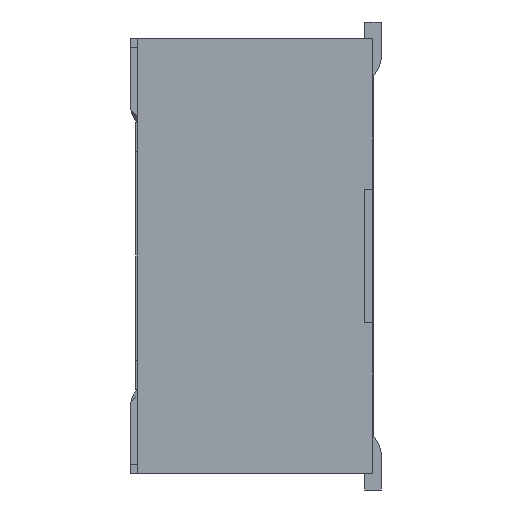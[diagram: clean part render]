
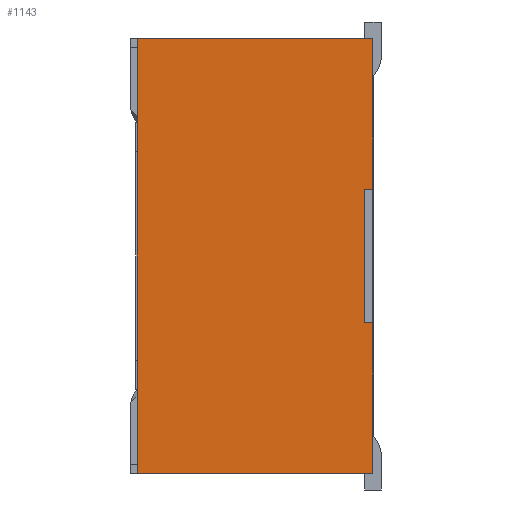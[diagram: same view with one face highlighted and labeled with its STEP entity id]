
A CAD part, left-side view. The second image highlights one B-rep face of the part: STEP entity #1143.
In plain terms, the highlighted planar face has unit normal (-1, 0, 0).
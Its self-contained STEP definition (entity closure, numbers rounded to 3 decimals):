
#320 = CARTESIAN_POINT ( 'NONE',  ( -4.825, 0.1, 0.4 ) ) ;
#558 = CARTESIAN_POINT ( 'NONE',  ( -4.825, 0.05, 0.4 ) ) ;
#1143 = ADVANCED_FACE ( 'NONE', ( #11291 ), #6870, .T. ) ;
#1161 = ORIENTED_EDGE ( 'NONE', *, *, #16191, .T. ) ;
#1882 = CARTESIAN_POINT ( 'NONE',  ( -4.825, 0.05, -0.4 ) ) ;
#2257 = DIRECTION ( 'NONE',  ( 0., 0., 1. ) ) ;
#2588 = EDGE_CURVE ( 'NONE', #8569, #11767, #17239, .T. ) ;
#3163 = CARTESIAN_POINT ( 'NONE',  ( -4.825, 1.46, 1.3 ) ) ;
#3285 = EDGE_CURVE ( 'NONE', #4883, #8186, #26761, .T. ) ;
#3888 = DIRECTION ( 'NONE',  ( 0., -1., 0. ) ) ;
#4108 = CARTESIAN_POINT ( 'NONE',  ( -4.825, 0.05, 1.3 ) ) ;
#4554 = EDGE_LOOP ( 'NONE', ( #14489, #10932, #11427, #11312, #16995, #1161, #15320, #12981 ) ) ;
#4680 = AXIS2_PLACEMENT_3D ( 'NONE', #11328, #10193, #7838 ) ;
#4883 = VERTEX_POINT ( 'NONE', #3163 ) ;
#5557 = VECTOR ( 'NONE', #14345, 1000. ) ;
#5875 = DIRECTION ( 'NONE',  ( 0., 0., 1. ) ) ;
#6100 = VECTOR ( 'NONE', #5875, 1000. ) ;
#6562 = CARTESIAN_POINT ( 'NONE',  ( -4.825, 0.1, 0.4 ) ) ;
#6809 = DIRECTION ( 'NONE',  ( 0., 0., -1. ) ) ;
#6870 = PLANE ( 'NONE',  #4680 ) ;
#7735 = VECTOR ( 'NONE', #3888, 1000. ) ;
#7838 = DIRECTION ( 'NONE',  ( 0., 0., -1. ) ) ;
#8186 = VERTEX_POINT ( 'NONE', #9976 ) ;
#8569 = VERTEX_POINT ( 'NONE', #15766 ) ;
#8947 = CARTESIAN_POINT ( 'NONE',  ( -4.825, 0.05, -1.3 ) ) ;
#9581 = VERTEX_POINT ( 'NONE', #558 ) ;
#9799 = CARTESIAN_POINT ( 'NONE',  ( -4.825, 1.3, 1.3 ) ) ;
#9976 = CARTESIAN_POINT ( 'NONE',  ( -4.825, 1.46, -1.3 ) ) ;
#10193 = DIRECTION ( 'NONE',  ( -1., 0., 0. ) ) ;
#10445 = EDGE_CURVE ( 'NONE', #9581, #20470, #23280, .T. ) ;
#10932 = ORIENTED_EDGE ( 'NONE', *, *, #26933, .F. ) ;
#10964 = VECTOR ( 'NONE', #2257, 1000. ) ;
#11291 = FACE_OUTER_BOUND ( 'NONE', #4554, .T. ) ;
#11312 = ORIENTED_EDGE ( 'NONE', *, *, #2588, .F. ) ;
#11328 = CARTESIAN_POINT ( 'NONE',  ( -4.825, 0., 0. ) ) ;
#11427 = ORIENTED_EDGE ( 'NONE', *, *, #25491, .T. ) ;
#11537 = VECTOR ( 'NONE', #27497, 1000. ) ;
#11767 = VERTEX_POINT ( 'NONE', #1882 ) ;
#12981 = ORIENTED_EDGE ( 'NONE', *, *, #19650, .F. ) ;
#14345 = DIRECTION ( 'NONE',  ( 0., 1., 0. ) ) ;
#14489 = ORIENTED_EDGE ( 'NONE', *, *, #3285, .T. ) ;
#15213 = VECTOR ( 'NONE', #21188, 1000. ) ;
#15320 = ORIENTED_EDGE ( 'NONE', *, *, #10445, .T. ) ;
#15766 = CARTESIAN_POINT ( 'NONE',  ( -4.825, 0.1, -0.4 ) ) ;
#16191 = EDGE_CURVE ( 'NONE', #22469, #9581, #24974, .T. ) ;
#16674 = LINE ( 'NONE', #25892, #10964 ) ;
#16995 = ORIENTED_EDGE ( 'NONE', *, *, #17479, .F. ) ;
#17239 = LINE ( 'NONE', #25346, #11537 ) ;
#17479 = EDGE_CURVE ( 'NONE', #22469, #8569, #27508, .T. ) ;
#19260 = VECTOR ( 'NONE', #22732, 1000. ) ;
#19650 = EDGE_CURVE ( 'NONE', #4883, #20470, #24369, .T. ) ;
#20470 = VERTEX_POINT ( 'NONE', #4108 ) ;
#21037 = VECTOR ( 'NONE', #6809, 1000. ) ;
#21188 = DIRECTION ( 'NONE',  ( 0., 0., -1. ) ) ;
#22008 = LINE ( 'NONE', #27318, #5557 ) ;
#22469 = VERTEX_POINT ( 'NONE', #6562 ) ;
#22525 = VERTEX_POINT ( 'NONE', #8947 ) ;
#22732 = DIRECTION ( 'NONE',  ( 0., -1., 0. ) ) ;
#23087 = CARTESIAN_POINT ( 'NONE',  ( -4.825, 0.05, 1.3 ) ) ;
#23280 = LINE ( 'NONE', #23087, #6100 ) ;
#24369 = LINE ( 'NONE', #9799, #19260 ) ;
#24974 = LINE ( 'NONE', #25359, #7735 ) ;
#25346 = CARTESIAN_POINT ( 'NONE',  ( -4.825, 0.1, -0.4 ) ) ;
#25359 = CARTESIAN_POINT ( 'NONE',  ( -4.825, 0.1, 0.4 ) ) ;
#25491 = EDGE_CURVE ( 'NONE', #22525, #11767, #16674, .T. ) ;
#25594 = CARTESIAN_POINT ( 'NONE',  ( -4.825, 1.46, 1.3 ) ) ;
#25892 = CARTESIAN_POINT ( 'NONE',  ( -4.825, 0.05, 1.3 ) ) ;
#26761 = LINE ( 'NONE', #25594, #15213 ) ;
#26933 = EDGE_CURVE ( 'NONE', #22525, #8186, #22008, .T. ) ;
#27318 = CARTESIAN_POINT ( 'NONE',  ( -4.825, 1.3, -1.3 ) ) ;
#27497 = DIRECTION ( 'NONE',  ( 0., -1., 0. ) ) ;
#27508 = LINE ( 'NONE', #320, #21037 ) ;
